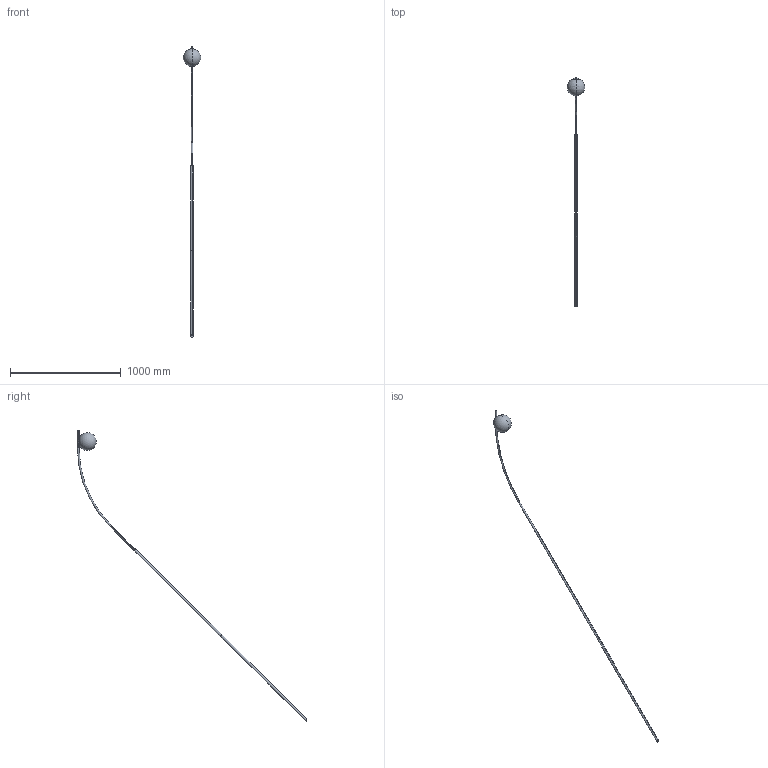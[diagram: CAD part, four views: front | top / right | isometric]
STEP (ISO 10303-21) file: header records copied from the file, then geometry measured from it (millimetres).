
FILE_DESCRIPTION((''),'2;1');
FILE_NAME('HASTARGARDEN_LUNO_SW0001','2026-02-04T08:08:58',('Piccioli'),(''),'CREO PARAMETRIC BY PTC INC, 2025010','CREO PARAMETRIC BY PTC INC, 2025010','');
FILE_SCHEMA(('CONFIG_CONTROL_DESIGN'));
Length unit declared in the file: millimetre
Products named in the file (1): HASTARGARDEN_LUNO_SW0001
Bounding box: 159.64 x 2071.27 x 2637.6 mm (x, y, z)
Surface area: 278671 mm2 (no closed solid volume)
Topology: 0 solids, 7 shells, 37 faces, 118 edges, 75 vertices
Faces by surface type: cylinder 20, sphere 6, cone 5, plane 3, torus 3
Entity records: 3122 total; most frequent: CARTESIAN_POINT 2105, DIRECTION 205, ORIENTED_EDGE 184, EDGE_CURVE 116, AXIS2_PLACEMENT_3D 84, VERTEX_POINT 75, CIRCLE 47, VECTOR 37
